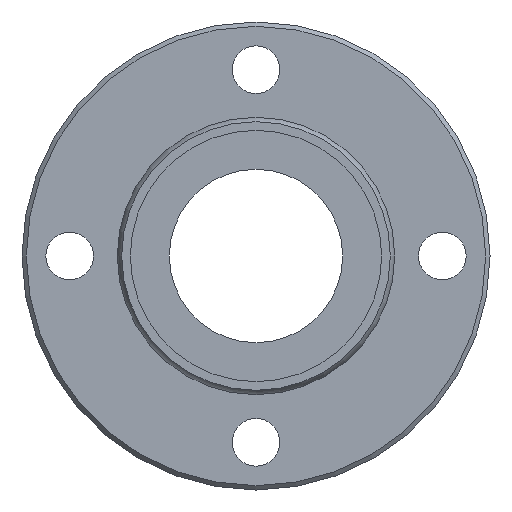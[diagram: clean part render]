
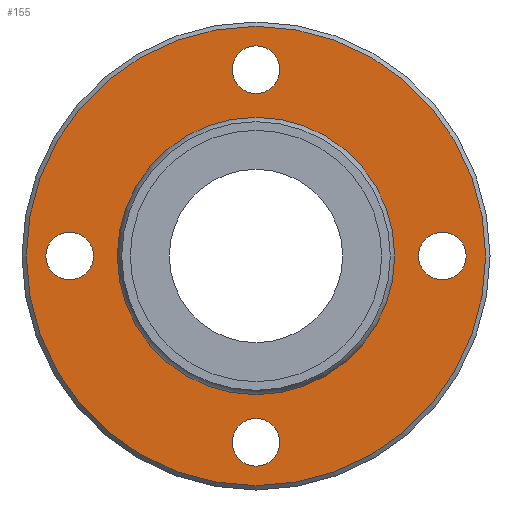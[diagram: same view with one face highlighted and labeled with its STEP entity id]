
A CAD part, left-side view. The second image highlights one B-rep face of the part: STEP entity #155.
In plain terms, the highlighted planar face has unit normal (-1, 0, 0).
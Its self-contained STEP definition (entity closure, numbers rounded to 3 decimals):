
#60=CARTESIAN_POINT('',(8.,0.,26.5));
#61=VERTEX_POINT('',#60);
#62=CARTESIAN_POINT('',(8.,0.0,0.0));
#63=DIRECTION('',(1.0,0.0,0.0));
#64=DIRECTION('',(0.0,0.0,-1.0));
#65=AXIS2_PLACEMENT_3D('',#62,#63,#64);
#66=CIRCLE('',#65,26.5);
#67=EDGE_CURVE('',#61,#61,#66,.T.);
#92=CARTESIAN_POINT('',(8.,0.0,21.387));
#93=DIRECTION('',(-1.0,0.0,0.0));
#94=DIRECTION('',(0.0,0.0,1.0));
#95=AXIS2_PLACEMENT_3D('',#92,#93,#94);
#96=PLANE('',#95);
#97=ORIENTED_EDGE('',*,*,#67,.F.);
#98=EDGE_LOOP('',(#97));
#99=FACE_OUTER_BOUND('',#98,.T.);
#100=CARTESIAN_POINT('',(8.,0.0,15.773));
#101=VERTEX_POINT('',#100);
#102=CARTESIAN_POINT('',(8.,0.0,0.0));
#103=DIRECTION('',(-1.0,0.0,0.0));
#104=DIRECTION('',(0.0,0.0,1.0));
#105=AXIS2_PLACEMENT_3D('',#102,#103,#104);
#106=CIRCLE('',#105,15.773);
#107=EDGE_CURVE('',#101,#101,#106,.T.);
#108=ORIENTED_EDGE('',*,*,#107,.F.);
#109=EDGE_LOOP('',(#108));
#110=FACE_BOUND('',#109,.T.);
#111=CARTESIAN_POINT('',(8.,18.75,0.));
#112=VERTEX_POINT('',#111);
#113=CARTESIAN_POINT('',(8.,21.5,0.));
#114=DIRECTION('',(1.0,0.0,0.0));
#115=DIRECTION('',(0.0,1.0,0.0));
#116=AXIS2_PLACEMENT_3D('',#113,#114,#115);
#117=CIRCLE('',#116,2.75);
#118=EDGE_CURVE('',#112,#112,#117,.T.);
#119=ORIENTED_EDGE('',*,*,#118,.T.);
#120=EDGE_LOOP('',(#119));
#121=FACE_BOUND('',#120,.T.);
#122=CARTESIAN_POINT('',(8.,-24.25,0.));
#123=VERTEX_POINT('',#122);
#124=CARTESIAN_POINT('',(8.,-21.5,0.0));
#125=DIRECTION('',(1.0,0.0,0.0));
#126=DIRECTION('',(0.0,1.0,0.0));
#127=AXIS2_PLACEMENT_3D('',#124,#125,#126);
#128=CIRCLE('',#127,2.75);
#129=EDGE_CURVE('',#123,#123,#128,.T.);
#130=ORIENTED_EDGE('',*,*,#129,.T.);
#131=EDGE_LOOP('',(#130));
#132=FACE_BOUND('',#131,.T.);
#133=CARTESIAN_POINT('',(8.,-2.75,21.5));
#134=VERTEX_POINT('',#133);
#135=CARTESIAN_POINT('',(8.,0.,21.5));
#136=DIRECTION('',(1.0,0.0,0.0));
#137=DIRECTION('',(0.0,1.0,0.0));
#138=AXIS2_PLACEMENT_3D('',#135,#136,#137);
#139=CIRCLE('',#138,2.75);
#140=EDGE_CURVE('',#134,#134,#139,.T.);
#141=ORIENTED_EDGE('',*,*,#140,.T.);
#142=EDGE_LOOP('',(#141));
#143=FACE_BOUND('',#142,.T.);
#144=CARTESIAN_POINT('',(8.,-2.75,-21.5));
#145=VERTEX_POINT('',#144);
#146=CARTESIAN_POINT('',(8.,0.,-21.5));
#147=DIRECTION('',(1.0,0.0,0.0));
#148=DIRECTION('',(0.0,1.0,0.0));
#149=AXIS2_PLACEMENT_3D('',#146,#147,#148);
#150=CIRCLE('',#149,2.75);
#151=EDGE_CURVE('',#145,#145,#150,.T.);
#152=ORIENTED_EDGE('',*,*,#151,.T.);
#153=EDGE_LOOP('',(#152));
#154=FACE_BOUND('',#153,.T.);
#155=ADVANCED_FACE('',(#99,#110,#121,#132,#143,#154),#96,.T.);
